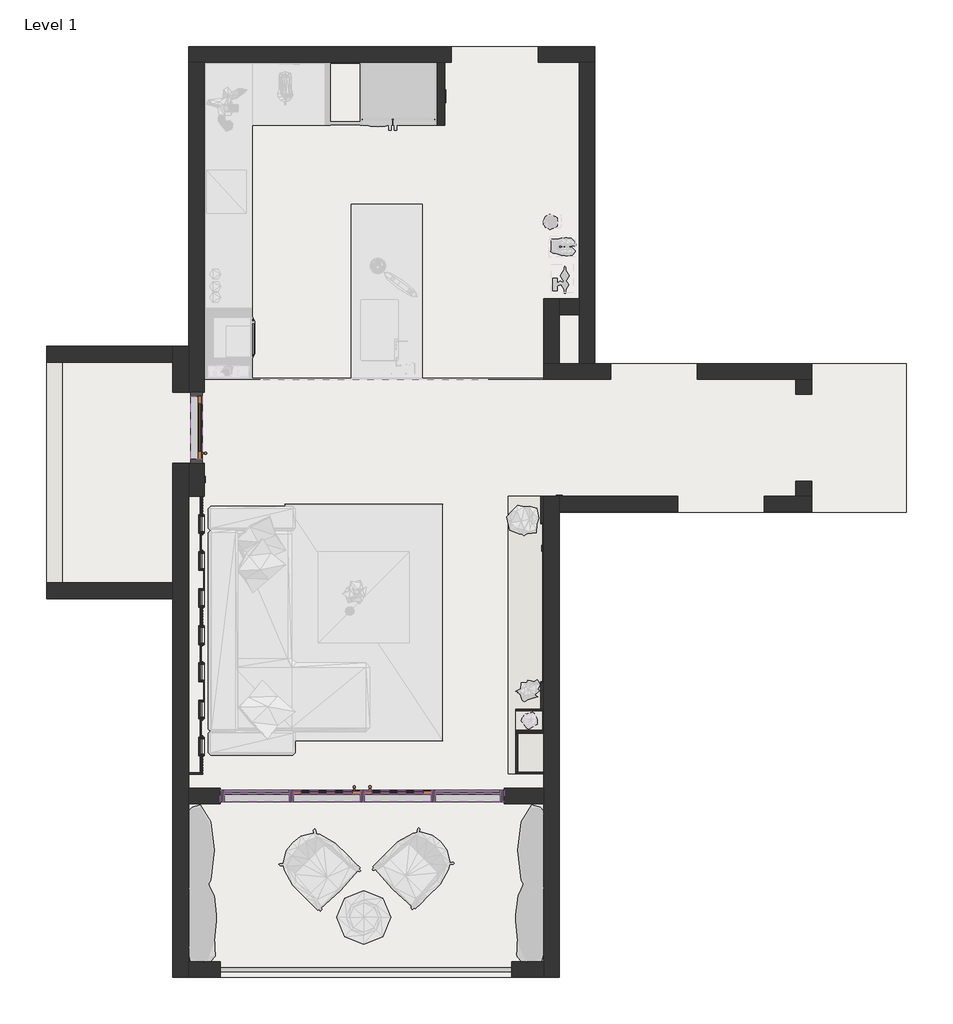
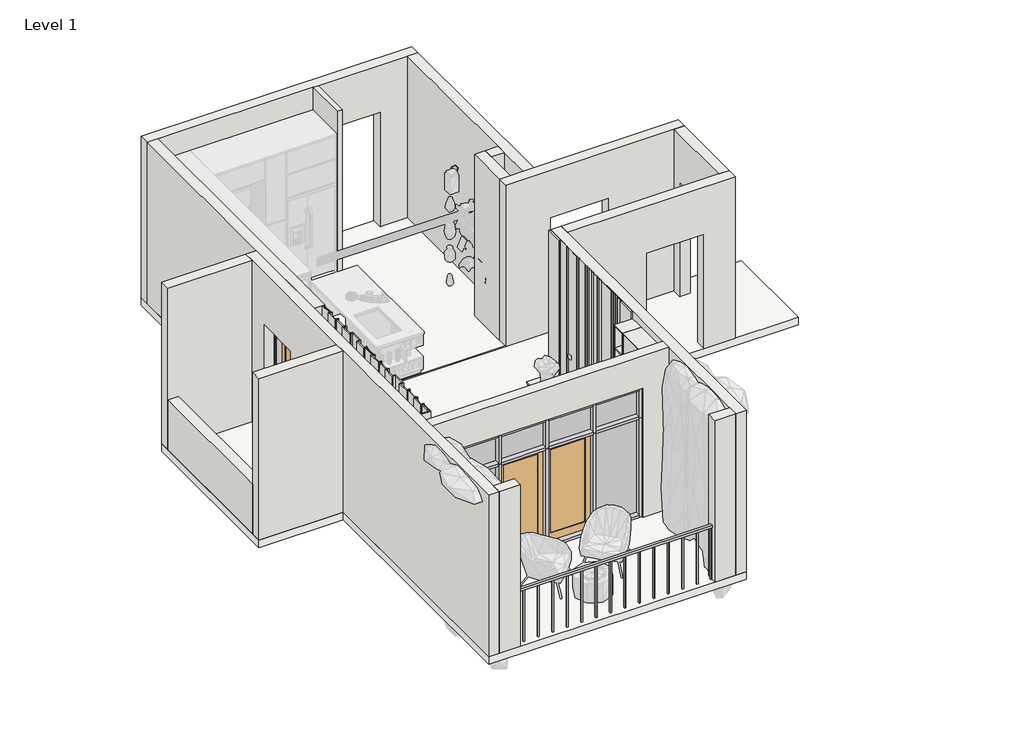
# One storey, part 1 of 2: 26 members, 18 walls, 6 plates, 3 doors, 1 railing, 1 slab.
"""IFC4 building model written with IfcOpenShell, lengths in millimetres."""

from ifc_helpers import new_model, si_unit, frame, origin, origin_with_axes, place, context, project, spatial, polyline, outline, extrude, faceted_brep, transform, mapped, element, save
from components import sgl_glass_1_sgl_glass_1_d6d459c3, sgl_glass_1_sgl_glass_1_0335e07f, sgl_glass_1_sgl_glass_1_a7b072f2, rectangular_mullion_50_x_150mm_3a148f0f, rectangular_mullion_50_x_150mm_aa47fe12, rectangular_mullion_50_x_150mm_6ffebc0f, rectangular_mullion_50_x_150mm_792551fd, rectangular_mullion_50_x_150mm_90073b9d, rectangular_mullion_50_x_150mm_b8505a44, rectangular_mullion_50_x_150mm_68b3818a, rectangular_mullion_50_x_150mm_36fc73c7, rectangular_mullion_50_x_150mm_cc7d0dd8, rectangular_mullion_50_x_150mm_64d38db8, system_panel_glazed_a63d9171, system_panel_glazed_6198c0aa, system_panel_glazed_073ab813, walls_1_walls_1_cd71ade8, walls_1_walls_1_f71c6d6e

model = new_model("IFC4")

# Units and contexts
model_context = context("Model", 3, world=origin())
ifc_project = project(units=[si_unit("LENGTHUNIT", "METRE", prefix="MILLI")], contexts=[model_context])

# Site, building, storey
site = spatial("IfcSite", under=ifc_project)
building = spatial("IfcBuilding", under=site)
storey = spatial("IfcBuildingStorey", under=building, Name="Level 1", Elevation=0.0)

# Doors
placement = place(None, origin())
sgl_glass_1_sgl_glass_1_shape = sgl_glass_1_sgl_glass_1_d6d459c3(model_context)
element("IfcDoor", 1, ObjectType="Sgl Glass (1) : Sgl Glass (1)", at=placement, inside=storey, context=model_context, shape_type="MappedRepresentation", body=[
    mapped(sgl_glass_1_sgl_glass_1_shape, transform((-6467.2426281, 2080.1043853, 50.0), x_axis=(0.0, 1.0, 0.0), y_axis=(-1.0, 0.0, 0.0), z_axis=(0.0, 0.0, 1.0))),
])
sgl_glass_1_sgl_glass_1_2_shape = sgl_glass_1_sgl_glass_1_0335e07f(model_context)
element("IfcDoor", 2, ObjectType="Sgl Glass (1) : Sgl Glass (1)", at=placement, inside=storey, context=model_context, shape_type="MappedRepresentation", body=[
    mapped(sgl_glass_1_sgl_glass_1_2_shape, transform((-4817.2426281, -2589.8956147, 50.0), x_axis=(-1.0, 0.0, 0.0), y_axis=(0.0, -1.0, 0.0), z_axis=(0.0, 0.0, 1.0))),
])
sgl_glass_1_sgl_glass_1_3_shape = sgl_glass_1_sgl_glass_1_a7b072f2(model_context)
element("IfcDoor", 3, ObjectType="Sgl Glass (1) : Sgl Glass (1)", at=placement, inside=storey, context=model_context, shape_type="MappedRepresentation", body=[
    mapped(sgl_glass_1_sgl_glass_1_3_shape, transform((-3917.2426282, -2589.8956147, 50.0), x_axis=(1.0, 0.0, 0.0), y_axis=(0.0, 1.0, 0.0), z_axis=(0.0, 0.0, 1.0))),
])

# Members
rectangular_mullion_50_x_150mm_shape = rectangular_mullion_50_x_150mm_3a148f0f(model_context)
element("IfcMember", 4, ObjectType="Rectangular Mullion : 50 x 150mm", at=placement, inside=storey, context=model_context, shape_type="MappedRepresentation", body=[
    mapped(rectangular_mullion_50_x_150mm_shape, transform((-5267.242628, -2589.8956147, 0.0), x_axis=(1.0, 0.0, 0.0), y_axis=(0.0, -1.0, 0.0), z_axis=(0.0, 0.0, -1.0))),
])
element("IfcMember", 5, ObjectType="Rectangular Mullion : 50 x 150mm", at=placement, inside=storey, context=model_context, shape_type="MappedRepresentation", body=[
    mapped(rectangular_mullion_50_x_150mm_shape, transform((-4367.2426281, -2589.8956147, 0.0), x_axis=(1.0, 0.0, 0.0), y_axis=(0.0, -1.0, 0.0), z_axis=(0.0, 0.0, -1.0))),
])
element("IfcMember", 6, ObjectType="Rectangular Mullion : 50 x 150mm", at=placement, inside=storey, context=model_context, shape_type="MappedRepresentation", body=[
    mapped(rectangular_mullion_50_x_150mm_shape, transform((-3467.2426283, -2589.8956147, 0.0), x_axis=(1.0, 0.0, 0.0), y_axis=(0.0, -1.0, 0.0), z_axis=(0.0, 0.0, -1.0))),
])
rectangular_mullion_50_x_150mm_2_shape = rectangular_mullion_50_x_150mm_aa47fe12(model_context)
element("IfcMember", 7, ObjectType="Rectangular Mullion : 50 x 150mm", at=placement, inside=storey, context=model_context, shape_type="MappedRepresentation", body=[
    mapped(rectangular_mullion_50_x_150mm_2_shape, transform((-2567.2426281, -2589.8956147, 0.0), x_axis=(1.0, 0.0, 0.0), y_axis=(0.0, -1.0, 0.0), z_axis=(0.0, 0.0, -1.0))),
])
element("IfcMember", 8, ObjectType="Rectangular Mullion : 50 x 150mm", at=placement, inside=storey, context=model_context, shape_type="MappedRepresentation", body=[
    mapped(rectangular_mullion_50_x_150mm_2_shape, transform((-6167.2426281, -2589.8956147, 2000.0), x_axis=(-1.0, 0.0, 0.0), y_axis=(0.0, -1.0, 0.0), z_axis=(0.0, 0.0, 1.0))),
])
rectangular_mullion_50_x_150mm_3_shape = rectangular_mullion_50_x_150mm_6ffebc0f(model_context)
element("IfcMember", 9, ObjectType="Rectangular Mullion : 50 x 150mm", at=placement, inside=storey, context=model_context, shape_type="MappedRepresentation", body=[
    mapped(rectangular_mullion_50_x_150mm_3_shape, transform((-6467.2426281, 1680.1043853, 2200.0), x_axis=(0.0, 0.0, 1.0), y_axis=(-1.0, 0.0, 0.0), z_axis=(0.0, -1.0, 0.0))),
])
element("IfcMember", 10, ObjectType="Rectangular Mullion : 50 x 150mm", at=placement, inside=storey, context=model_context, shape_type="MappedRepresentation", body=[
    mapped(rectangular_mullion_50_x_150mm_3_shape, transform((-6467.2426281, 2480.1043853, 0.0), x_axis=(0.0, 0.0, -1.0), y_axis=(-1.0, 0.0, 0.0), z_axis=(0.0, 1.0, 0.0))),
])
rectangular_mullion_50_x_150mm_4_shape = rectangular_mullion_50_x_150mm_792551fd(model_context)
element("IfcMember", 11, ObjectType="Rectangular Mullion : 50 x 150mm", at=placement, inside=storey, context=model_context, shape_type="MappedRepresentation", body=[
    mapped(rectangular_mullion_50_x_150mm_4_shape, transform((-6467.2426281, 1630.1043853, 0.0), x_axis=(0.0, -1.0, 0.0), y_axis=(-1.0, 0.0, 0.0), z_axis=(0.0, 0.0, -1.0))),
])
element("IfcMember", 12, ObjectType="Rectangular Mullion : 50 x 150mm", at=placement, inside=storey, context=model_context, shape_type="MappedRepresentation", body=[
    mapped(rectangular_mullion_50_x_150mm_4_shape, transform((-6467.2426281, 2530.1043853, 2200.0), x_axis=(0.0, 1.0, 0.0), y_axis=(-1.0, 0.0, 0.0), z_axis=(0.0, 0.0, 1.0))),
])
rectangular_mullion_50_x_150mm_5_shape = rectangular_mullion_50_x_150mm_90073b9d(model_context)
element("IfcMember", 13, ObjectType="Rectangular Mullion : 50 x 150mm", at=placement, inside=storey, context=model_context, shape_type="MappedRepresentation", body=[
    mapped(rectangular_mullion_50_x_150mm_5_shape, transform((-2617.2426281, -2589.8956147, 2600.0), x_axis=(0.0, 0.0, 1.0), y_axis=(0.0, -1.0, 0.0), z_axis=(1.0, 0.0, 0.0))),
])
element("IfcMember", 14, ObjectType="Rectangular Mullion : 50 x 150mm", at=placement, inside=storey, context=model_context, shape_type="MappedRepresentation", body=[
    mapped(rectangular_mullion_50_x_150mm_5_shape, transform((-5292.242628, -2589.8956147, 2600.0), x_axis=(0.0, 0.0, 1.0), y_axis=(0.0, -1.0, 0.0), z_axis=(1.0, 0.0, 0.0))),
])
rectangular_mullion_50_x_150mm_6_shape = rectangular_mullion_50_x_150mm_b8505a44(model_context)
element("IfcMember", 15, ObjectType="Rectangular Mullion : 50 x 150mm", at=placement, inside=storey, context=model_context, shape_type="MappedRepresentation", body=[
    mapped(rectangular_mullion_50_x_150mm_6_shape, transform((-4392.2426281, -2589.8956147, 2600.0), x_axis=(0.0, 0.0, 1.0), y_axis=(0.0, -1.0, 0.0), z_axis=(1.0, 0.0, 0.0))),
])
element("IfcMember", 16, ObjectType="Rectangular Mullion : 50 x 150mm", at=placement, inside=storey, context=model_context, shape_type="MappedRepresentation", body=[
    mapped(rectangular_mullion_50_x_150mm_6_shape, transform((-3492.2426283, -2589.8956147, 2600.0), x_axis=(0.0, 0.0, 1.0), y_axis=(0.0, -1.0, 0.0), z_axis=(1.0, 0.0, 0.0))),
])
element("IfcMember", 17, ObjectType="Rectangular Mullion : 50 x 150mm", at=placement, inside=storey, context=model_context, shape_type="MappedRepresentation", body=[
    mapped(rectangular_mullion_50_x_150mm_5_shape, transform((-6117.2426281, -2589.8956147, 0.0), x_axis=(0.0, 0.0, -1.0), y_axis=(0.0, -1.0, 0.0), z_axis=(-1.0, 0.0, 0.0))),
])
element("IfcMember", 18, ObjectType="Rectangular Mullion : 50 x 150mm", at=placement, inside=storey, context=model_context, shape_type="MappedRepresentation", body=[
    mapped(rectangular_mullion_50_x_150mm_5_shape, transform((-3442.2426283, -2589.8956147, 0.0), x_axis=(0.0, 0.0, -1.0), y_axis=(0.0, -1.0, 0.0), z_axis=(-1.0, 0.0, 0.0))),
])
element("IfcMember", 19, ObjectType="Rectangular Mullion : 50 x 150mm", at=placement, inside=storey, context=model_context, shape_type="MappedRepresentation", body=[
    mapped(rectangular_mullion_50_x_150mm_6_shape, transform((-5242.242628, -2589.8956147, 0.0), x_axis=(0.0, 0.0, -1.0), y_axis=(0.0, -1.0, 0.0), z_axis=(-1.0, 0.0, 0.0))),
])
element("IfcMember", 20, ObjectType="Rectangular Mullion : 50 x 150mm", at=placement, inside=storey, context=model_context, shape_type="MappedRepresentation", body=[
    mapped(rectangular_mullion_50_x_150mm_6_shape, transform((-4342.2426281, -2589.8956147, 0.0), x_axis=(0.0, 0.0, -1.0), y_axis=(0.0, -1.0, 0.0), z_axis=(-1.0, 0.0, 0.0))),
])
rectangular_mullion_50_x_150mm_7_shape = rectangular_mullion_50_x_150mm_68b3818a(model_context)
element("IfcMember", 21, ObjectType="Rectangular Mullion : 50 x 150mm", at=placement, inside=storey, context=model_context, shape_type="MappedRepresentation", body=[
    mapped(rectangular_mullion_50_x_150mm_7_shape, transform((-5267.242628, -2589.8956147, 2000.0), x_axis=(1.0, 0.0, 0.0), y_axis=(0.0, -1.0, 0.0), z_axis=(0.0, 0.0, -1.0))),
])
element("IfcMember", 22, ObjectType="Rectangular Mullion : 50 x 150mm", at=placement, inside=storey, context=model_context, shape_type="MappedRepresentation", body=[
    mapped(rectangular_mullion_50_x_150mm_7_shape, transform((-4367.2426281, -2589.8956147, 2000.0), x_axis=(1.0, 0.0, 0.0), y_axis=(0.0, -1.0, 0.0), z_axis=(0.0, 0.0, -1.0))),
])
element("IfcMember", 23, ObjectType="Rectangular Mullion : 50 x 150mm", at=placement, inside=storey, context=model_context, shape_type="MappedRepresentation", body=[
    mapped(rectangular_mullion_50_x_150mm_7_shape, transform((-3467.2426283, -2589.8956147, 2000.0), x_axis=(1.0, 0.0, 0.0), y_axis=(0.0, -1.0, 0.0), z_axis=(0.0, 0.0, -1.0))),
])
rectangular_mullion_50_x_150mm_8_shape = rectangular_mullion_50_x_150mm_36fc73c7(model_context)
element("IfcMember", 24, ObjectType="Rectangular Mullion : 50 x 150mm", at=placement, inside=storey, context=model_context, shape_type="MappedRepresentation", body=[
    mapped(rectangular_mullion_50_x_150mm_8_shape, transform((-5292.242628, -2589.8956147, 2000.0), x_axis=(0.0, 0.0, 1.0), y_axis=(0.0, -1.0, 0.0), z_axis=(1.0, 0.0, 0.0))),
])
element("IfcMember", 25, ObjectType="Rectangular Mullion : 50 x 150mm", at=placement, inside=storey, context=model_context, shape_type="MappedRepresentation", body=[
    mapped(rectangular_mullion_50_x_150mm_8_shape, transform((-2617.2426281, -2589.8956147, 2000.0), x_axis=(0.0, 0.0, 1.0), y_axis=(0.0, -1.0, 0.0), z_axis=(1.0, 0.0, 0.0))),
])
rectangular_mullion_50_x_150mm_9_shape = rectangular_mullion_50_x_150mm_cc7d0dd8(model_context)
element("IfcMember", 26, ObjectType="Rectangular Mullion : 50 x 150mm", at=placement, inside=storey, context=model_context, shape_type="MappedRepresentation", body=[
    mapped(rectangular_mullion_50_x_150mm_9_shape, transform((-4392.2426281, -2589.8956147, 2000.0), x_axis=(0.0, 0.0, 1.0), y_axis=(0.0, -1.0, 0.0), z_axis=(1.0, 0.0, 0.0))),
])
element("IfcMember", 27, ObjectType="Rectangular Mullion : 50 x 150mm", at=placement, inside=storey, context=model_context, shape_type="MappedRepresentation", body=[
    mapped(rectangular_mullion_50_x_150mm_9_shape, transform((-3492.2426283, -2589.8956147, 2000.0), x_axis=(0.0, 0.0, 1.0), y_axis=(0.0, -1.0, 0.0), z_axis=(1.0, 0.0, 0.0))),
])
rectangular_mullion_50_x_150mm_10_shape = rectangular_mullion_50_x_150mm_64d38db8(model_context)
element("IfcMember", 28, ObjectType="Rectangular Mullion : 50 x 150mm", at=placement, inside=storey, context=model_context, shape_type="MappedRepresentation", body=[
    mapped(rectangular_mullion_50_x_150mm_10_shape, transform((-6167.2426281, -2589.8956147, 2600.0), x_axis=(-1.0, 0.0, 0.0), y_axis=(0.0, -1.0, 0.0), z_axis=(0.0, 0.0, 1.0))),
])
element("IfcMember", 29, ObjectType="Rectangular Mullion : 50 x 150mm", at=placement, inside=storey, context=model_context, shape_type="MappedRepresentation", body=[
    mapped(rectangular_mullion_50_x_150mm_10_shape, transform((-2567.2426281, -2589.8956147, 2000.0), x_axis=(1.0, 0.0, 0.0), y_axis=(0.0, -1.0, 0.0), z_axis=(0.0, 0.0, -1.0))),
])

# Plates
system_panel_glazed_shape = system_panel_glazed_a63d9171(model_context)
element("IfcPlate", 30, ObjectType="System Panel : Glazed", at=placement, inside=storey, context=model_context, shape_type="MappedRepresentation", body=[
    mapped(system_panel_glazed_shape, transform((-5704.7426281, -2589.8956147, 2025.0), x_axis=(1.0, 0.0, 0.0), y_axis=(0.0, 1.0, 0.0), z_axis=(0.0, 0.0, 1.0))),
])
element("IfcPlate", 31, ObjectType="System Panel : Glazed", at=placement, inside=storey, context=model_context, shape_type="MappedRepresentation", body=[
    mapped(system_panel_glazed_shape, transform((-3029.7426282, -2589.8956147, 2025.0), x_axis=(1.0, 0.0, 0.0), y_axis=(0.0, 1.0, 0.0), z_axis=(0.0, 0.0, 1.0))),
])
system_panel_glazed_2_shape = system_panel_glazed_6198c0aa(model_context)
element("IfcPlate", 32, ObjectType="System Panel : Glazed", at=placement, inside=storey, context=model_context, shape_type="MappedRepresentation", body=[
    mapped(system_panel_glazed_2_shape, transform((-4817.2426281, -2589.8956147, 2025.0), x_axis=(1.0, 0.0, 0.0), y_axis=(0.0, 1.0, 0.0), z_axis=(0.0, 0.0, 1.0))),
])
element("IfcPlate", 33, ObjectType="System Panel : Glazed", at=placement, inside=storey, context=model_context, shape_type="MappedRepresentation", body=[
    mapped(system_panel_glazed_2_shape, transform((-3917.2426282, -2589.8956147, 2025.0), x_axis=(1.0, 0.0, 0.0), y_axis=(0.0, 1.0, 0.0), z_axis=(0.0, 0.0, 1.0))),
])
system_panel_glazed_3_shape = system_panel_glazed_073ab813(model_context)
element("IfcPlate", 34, ObjectType="System Panel : Glazed", at=placement, inside=storey, context=model_context, shape_type="MappedRepresentation", body=[
    mapped(system_panel_glazed_3_shape, transform((-5704.7426281, -2589.8956147, 50.0), x_axis=(1.0, 0.0, 0.0), y_axis=(0.0, 1.0, 0.0), z_axis=(0.0, 0.0, 1.0))),
])
element("IfcPlate", 35, ObjectType="System Panel : Glazed", at=placement, inside=storey, context=model_context, shape_type="MappedRepresentation", body=[
    mapped(system_panel_glazed_3_shape, transform((-3029.7426282, -2589.8956147, 50.0), x_axis=(1.0, 0.0, 0.0), y_axis=(0.0, 1.0, 0.0), z_axis=(0.0, 0.0, 1.0))),
])

# Railing
element("IfcRailing", 36, ObjectType="1100mm", at=placement, inside=storey, context=model_context, shape_type="SweptSolid", body=[
    extrude(outline(polyline([(-2467.2426281, -4764.8956147), (-2467.2426281, -4814.8956147), (-6167.2426281, -4814.8956147), (-6167.2426281, -4764.8956147), (-2467.2426281, -4764.8956147)])), frame((0.0, 0.0, 1050.0), z_axis=(0.0, 0.0, 1.0), x_axis=(1.0, 0.0, 0.0)), (0.0, 0.0, 1.0), 50.0),
    extrude(outline(polyline([(-6029.7426281, -4777.3956147), (-6029.7426281, -4802.3956147), (-6054.7426281, -4802.3956147), (-6054.7426281, -4777.3956147), (-6029.7426281, -4777.3956147)])), origin_with_axes(), (0.0, 0.0, 1.0), 1050.0),
    extrude(outline(polyline([(-5754.7426281, -4777.3956147), (-5754.7426281, -4802.3956147), (-5779.7426281, -4802.3956147), (-5779.7426281, -4777.3956147), (-5754.7426281, -4777.3956147)])), origin_with_axes(), (0.0, 0.0, 1.0), 1050.0),
    extrude(outline(polyline([(-5479.7426281, -4777.3956147), (-5479.7426281, -4802.3956147), (-5504.7426281, -4802.3956147), (-5504.7426281, -4777.3956147), (-5479.7426281, -4777.3956147)])), origin_with_axes(), (0.0, 0.0, 1.0), 1050.0),
    extrude(outline(polyline([(-5204.7426281, -4777.3956147), (-5204.7426281, -4802.3956147), (-5229.7426281, -4802.3956147), (-5229.7426281, -4777.3956147), (-5204.7426281, -4777.3956147)])), origin_with_axes(), (0.0, 0.0, 1.0), 1050.0),
    extrude(outline(polyline([(-4929.7426281, -4777.3956147), (-4929.7426281, -4802.3956147), (-4954.7426281, -4802.3956147), (-4954.7426281, -4777.3956147), (-4929.7426281, -4777.3956147)])), origin_with_axes(), (0.0, 0.0, 1.0), 1050.0),
    extrude(outline(polyline([(-4654.7426281, -4777.3956147), (-4654.7426281, -4802.3956147), (-4679.7426281, -4802.3956147), (-4679.7426281, -4777.3956147), (-4654.7426281, -4777.3956147)])), origin_with_axes(), (0.0, 0.0, 1.0), 1050.0),
    extrude(outline(polyline([(-4379.7426281, -4777.3956147), (-4379.7426281, -4802.3956147), (-4404.7426281, -4802.3956147), (-4404.7426281, -4777.3956147), (-4379.7426281, -4777.3956147)])), origin_with_axes(), (0.0, 0.0, 1.0), 1050.0),
    extrude(outline(polyline([(-4104.7426281, -4777.3956147), (-4104.7426281, -4802.3956147), (-4129.7426281, -4802.3956147), (-4129.7426281, -4777.3956147), (-4104.7426281, -4777.3956147)])), origin_with_axes(), (0.0, 0.0, 1.0), 1050.0),
    extrude(outline(polyline([(-3829.7426281, -4777.3956147), (-3829.7426281, -4802.3956147), (-3854.7426281, -4802.3956147), (-3854.7426281, -4777.3956147), (-3829.7426281, -4777.3956147)])), origin_with_axes(), (0.0, 0.0, 1.0), 1050.0),
    extrude(outline(polyline([(-3554.7426281, -4777.3956147), (-3554.7426281, -4802.3956147), (-3579.7426281, -4802.3956147), (-3579.7426281, -4777.3956147), (-3554.7426281, -4777.3956147)])), origin_with_axes(), (0.0, 0.0, 1.0), 1050.0),
    extrude(outline(polyline([(-3279.7426281, -4777.3956147), (-3279.7426281, -4802.3956147), (-3304.7426281, -4802.3956147), (-3304.7426281, -4777.3956147), (-3279.7426281, -4777.3956147)])), origin_with_axes(), (0.0, 0.0, 1.0), 1050.0),
    extrude(outline(polyline([(-3004.7426281, -4777.3956147), (-3004.7426281, -4802.3956147), (-3029.7426281, -4802.3956147), (-3029.7426281, -4777.3956147), (-3004.7426281, -4777.3956147)])), origin_with_axes(), (0.0, 0.0, 1.0), 1050.0),
    extrude(outline(polyline([(-2729.7426281, -4777.3956147), (-2729.7426281, -4802.3956147), (-2754.7426281, -4802.3956147), (-2754.7426281, -4777.3956147), (-2729.7426281, -4777.3956147)])), origin_with_axes(), (0.0, 0.0, 1.0), 1050.0),
    extrude(outline(polyline([(-6142.2426281, -4777.3956147), (-6142.2426281, -4802.3956147), (-6167.2426281, -4802.3956147), (-6167.2426281, -4777.3956147), (-6142.2426281, -4777.3956147)])), origin_with_axes(), (0.0, 0.0, 1.0), 1050.0),
    extrude(outline(polyline([(-2467.2426281, -4777.3956147), (-2467.2426281, -4802.3956147), (-2492.2426281, -4802.3956147), (-2492.2426281, -4777.3956147), (-2467.2426281, -4777.3956147)])), origin_with_axes(), (0.0, 0.0, 1.0), 1050.0),
])

# Slab
element("IfcSlab", 37, ObjectType="Generic 150mm", at=placement, inside=storey, context=model_context, shape_type="SweptSolid", body=[
    extrude(outline(polyline([(-1417.2426281, 6910.1043853), (-1417.2426281, 2890.1043853), (2532.7573719, 2890.1043853), (2532.7573719, 1010.1043853), (-1867.2426281, 1010.1043853), (-1867.2426281, -4889.8956147), (-6767.2426281, -4889.8956147), (-6767.2426281, -89.8956147), (-8367.2426281, -89.8956147), (-8367.2426281, 3110.1043853), (-6567.2426281, 3110.1043853), (-6567.2426281, 6910.1043853), (-1417.2426281, 6910.1043853)])), frame((0.0, 0.0, -150.0), z_axis=(0.0, 0.0, 1.0), x_axis=(1.0, 0.0, 0.0)), (0.0, 0.0, 1.0), 150.0),
])

# Walls
element("IfcWall", 38, ObjectType="Generic - 100mm", at=placement, inside=storey, context=model_context, shape_type="Brep", body=[
    faceted_brep([(-3417.2426281, 6710.1043853, 0.0), (-3417.2426281, 5910.1043853, 0.0), (-3417.2426281, 5910.1043853, 100.0), (-3417.2426281, 5910.1043853, 3250.0), (-3417.2426281, 6710.1043853, 3250.0), (-3317.2426281, 5910.1043853, 0.0), (-3317.2426281, 6710.1043853, 0.0), (-3317.2426281, 6710.1043853, 100.0), (-3317.2426281, 6710.1043853, 3250.0), (-3317.2426281, 5910.1043853, 3250.0), (-3317.2426281, 5910.1043853, 100.0)], [[[0, 1, 2, 3, 4]], [[5, 6, 7, 8, 9, 10]], [[1, 0, 6, 5]], [[1, 5, 10, 9, 3, 2]], [[0, 4, 8, 7, 6]], [[4, 3, 9, 8]]]),
])
element("IfcWall", 39, ObjectType="Generic - 200mm", at=placement, inside=storey, context=model_context, shape_type="Brep", body=[
    faceted_brep([(-6567.2426281, 3110.1043853, 0.0), (-6567.2426281, 3110.1043853, 3250.0), (-6567.2426281, 1210.1043853, 3250.0), (-6567.2426281, -2489.8956147, 3250.0), (-6567.2426281, -2689.8956147, 3250.0), (-6567.2426281, -4689.8956147, 3250.0), (-6567.2426281, -4889.8956147, 3250.0), (-6567.2426281, -4889.8956147, 0.0), (-6567.2426281, -4689.8956147, 0.0), (-6567.2426281, -2689.8956147, 0.0), (-6567.2426281, -2489.8956147, 0.0), (-6567.2426281, 1210.1043853, 0.0), (-6567.2426281, 1630.1043853, 0.0), (-6567.2426281, 1630.1043853, 2200.0), (-6567.2426281, 2530.1043853, 2200.0), (-6567.2426281, 2530.1043853, 0.0), (-6767.2426281, 3110.1043853, 3250.0), (-6767.2426281, 3110.1043853, 0.0), (-6767.2426281, 2910.1043853, 0.0), (-6767.2426281, 2530.1043853, 0.0), (-6767.2426281, 2530.1043853, 2200.0), (-6767.2426281, 1630.1043853, 2200.0), (-6767.2426281, 1630.1043853, 0.0), (-6767.2426281, 110.1043853, 0.0), (-6767.2426281, -89.8956147, 0.0), (-6767.2426281, -4889.8956147, 0.0), (-6767.2426281, -4889.8956147, 3250.0), (-6767.2426281, -89.8956147, 3250.0), (-6767.2426281, 110.1043853, 3250.0), (-6767.2426281, 2910.1043853, 3250.0)], [[[0, 1, 2, 3, 4, 5, 6, 7, 8, 9, 10, 11, 12, 13, 14, 15]], [[16, 17, 18, 19, 20, 21, 22, 23, 24, 25, 26, 27, 28, 29]], [[17, 0, 15, 19, 18]], [[7, 25, 24, 23, 22, 12, 11, 10, 9, 8]], [[1, 0, 17, 16]], [[7, 6, 26, 25]], [[14, 20, 19, 15]], [[21, 13, 12, 22]], [[13, 21, 20, 14]], [[26, 6, 5, 4, 3, 2, 1, 16, 29, 28, 27]]]),
])
element("IfcWall", 40, ObjectType="Generic - 200mm", at=placement, inside=storey, context=model_context, shape_type="Brep", body=[
    faceted_brep([(-1417.2426281, 6710.1043853, 0.0), (-1417.2426281, 6710.1043853, 3250.0), (-1617.2426281, 6710.1043853, 3250.0), (-3317.2426281, 6710.1043853, 3250.0), (-3417.2426281, 6710.1043853, 3250.0), (-6367.2426281, 6710.1043853, 3250.0), (-6567.2426281, 6710.1043853, 3250.0), (-6567.2426281, 6710.1043853, 0.0), (-6367.2426281, 6710.1043853, 0.0), (-3417.2426281, 6710.1043853, 0.0), (-3317.2426281, 6710.1043853, 0.0), (-3237.2426281, 6710.1043853, 0.0), (-3237.2426281, 6710.1043853, 2300.0), (-2137.2426281, 6710.1043853, 2300.0), (-2137.2426281, 6710.1043853, 0.0), (-1617.2426281, 6710.1043853, 0.0), (-1417.2426281, 6910.1043853, 3250.0), (-1417.2426281, 6910.1043853, 0.0), (-2137.2426281, 6910.1043853, 0.0), (-2137.2426281, 6910.1043853, 2300.0), (-3237.2426281, 6910.1043853, 2300.0), (-3237.2426281, 6910.1043853, 0.0), (-6567.2426281, 6910.1043853, 0.0), (-6567.2426281, 6910.1043853, 3250.0)], [[[0, 1, 2, 3, 4, 5, 6, 7, 8, 9, 10, 11, 12, 13, 14, 15]], [[16, 17, 18, 19, 20, 21, 22, 23]], [[17, 0, 15, 14, 18]], [[7, 22, 21, 11, 10, 9, 8]], [[1, 0, 17, 16]], [[7, 6, 23, 22]], [[6, 5, 4, 3, 2, 1, 16, 23]], [[20, 12, 11, 21]], [[12, 20, 19, 13]], [[13, 19, 18, 14]]]),
])
element("IfcWall", 41, ObjectType="Generic - 200mm", at=placement, inside=storey, context=model_context, shape_type="Brep", body=[
    faceted_brep([(-2067.2426281, -4889.8956147, 0.0), (-2067.2426281, -4889.8956147, 3250.0), (-2067.2426281, -4689.8956147, 3250.0), (-2067.2426281, -2689.8956147, 3250.0), (-2067.2426281, -2489.8956147, 3250.0), (-2067.2426281, 1210.1043853, 3250.0), (-2067.2426281, 1210.1043853, 100.0), (-2067.2426281, 1210.1043853, 0.0), (-2067.2426281, -2479.8956147, 0.0), (-2067.2426281, -2489.8956147, 0.0), (-2067.2426281, -2689.8956147, 0.0), (-2067.2426281, -4689.8956147, 0.0), (-1867.2426281, -4889.8956147, 0.0), (-1867.2426281, 1010.1043853, 0.0), (-1867.2426281, 1210.1043853, 0.0), (-1867.2426281, 1210.1043853, 100.0), (-1867.2426281, 1210.1043853, 3250.0), (-1867.2426281, 1010.1043853, 3250.0), (-1867.2426281, -4889.8956147, 3250.0)], [[[0, 1, 2, 3, 4, 5, 6, 7, 8, 9, 10, 11]], [[12, 13, 14, 15, 16, 17, 18]], [[14, 13, 12, 0, 11, 10, 9, 8, 7]], [[5, 16, 15, 14, 7, 6]], [[1, 0, 12, 18]], [[16, 5, 4, 3, 2, 1, 18, 17]]]),
])
element("IfcWall", 42, ObjectType="Generic - 200mm", at=placement, inside=storey, context=model_context, shape_type="Brep", body=[
    faceted_brep([(-6767.2426281, 3110.1043853, 0.0), (-8367.2426281, 3110.1043853, 0.0), (-8367.2426281, 3110.1043853, 3250.0), (-6767.2426281, 3110.1043853, 3250.0), (-6767.2426281, 2910.1043853, 0.0), (-6767.2426281, 2910.1043853, 3250.0), (-8367.2426281, 2910.1043853, 3250.0), (-8367.2426281, 2910.1043853, 1000.0), (-8367.2426281, 2910.1043853, 0.0), (-8167.2426281, 2910.1043853, 0.0)], [[[0, 1, 2, 3]], [[4, 5, 6, 7, 8, 9]], [[1, 0, 4, 9, 8]], [[2, 1, 8, 7, 6]], [[0, 3, 5, 4]], [[3, 2, 6, 5]]]),
])
element("IfcWall", 43, ObjectType="Generic - 200mm", at=placement, inside=storey, context=model_context, shape_type="Brep", body=[
    faceted_brep([(-6767.2426281, 110.1043853, 0.0), (-8167.2426281, 110.1043853, 0.0), (-8367.2426281, 110.1043853, 0.0), (-8367.2426281, 110.1043853, 1000.0), (-8367.2426281, 110.1043853, 3250.0), (-6767.2426281, 110.1043853, 3250.0), (-6767.2426281, -89.8956147, 0.0), (-6767.2426281, -89.8956147, 3250.0), (-8367.2426281, -89.8956147, 3250.0), (-8367.2426281, -89.8956147, 0.0)], [[[0, 1, 2, 3, 4, 5]], [[6, 7, 8, 9]], [[2, 1, 0, 6, 9]], [[0, 5, 7, 6]], [[4, 3, 2, 9, 8]], [[5, 4, 8, 7]]]),
])
element("IfcWall", 44, ObjectType="Generic - 200mm", at=placement, inside=storey, context=model_context, shape_type="Brep", body=[
    faceted_brep([(1332.7573719, 2690.1043853, 0.0), (1332.7573719, 2690.1043853, 3250.0), (1132.7573719, 2690.1043853, 3250.0), (-2067.2426281, 2690.1043853, 3250.0), (-2067.2426281, 2690.1043853, 100.0), (-2067.2426281, 2690.1043853, 0.0), (-1217.2426281, 2690.1043853, 0.0), (-1217.2426281, 2690.1043853, 100.0), (-1217.2426281, 2690.1043853, 2300.0), (-117.2426281, 2690.1043853, 2300.0), (-117.2426281, 2690.1043853, 100.0), (-117.2426281, 2690.1043853, 0.0), (1132.7573719, 2690.1043853, 0.0), (1332.7573719, 2890.1043853, 3250.0), (1332.7573719, 2890.1043853, 0.0), (-117.2426281, 2890.1043853, 0.0), (-117.2426281, 2890.1043853, 2300.0), (-1217.2426281, 2890.1043853, 2300.0), (-1217.2426281, 2890.1043853, 0.0), (-1417.2426281, 2890.1043853, 0.0), (-1617.2426281, 2890.1043853, 0.0), (-1867.2426281, 2890.1043853, 0.0), (-2067.2426281, 2890.1043853, 0.0), (-2067.2426281, 2890.1043853, 100.0), (-2067.2426281, 2890.1043853, 3250.0), (-1867.2426281, 2890.1043853, 3250.0), (-1617.2426281, 2890.1043853, 3250.0), (-1417.2426281, 2890.1043853, 3250.0)], [[[0, 1, 2, 3, 4, 5, 6, 7, 8, 9, 10, 11, 12]], [[13, 14, 15, 16, 17, 18, 19, 20, 21, 22, 23, 24, 25, 26, 27]], [[5, 22, 21, 20, 19, 18, 6]], [[14, 0, 12, 11, 15]], [[3, 24, 23, 22, 5, 4]], [[1, 0, 14, 13]], [[24, 3, 2, 1, 13, 27, 26, 25]], [[9, 16, 15, 11, 10]], [[16, 9, 8, 17]], [[17, 8, 7, 6, 18]]]),
])
element("IfcWall", 45, ObjectType="Generic - 200mm", at=placement, inside=storey, context=model_context, shape_type="Brep", body=[
    faceted_brep([(-1867.2426281, 1010.1043853, 3250.0), (-1867.2426281, 1010.1043853, 0.0), (-367.2426281, 1010.1043853, 0.0), (-367.2426281, 1010.1043853, 2300.0), (732.7573719, 1010.1043853, 2300.0), (732.7573719, 1010.1043853, 0.0), (1332.7573719, 1010.1043853, 0.0), (1332.7573719, 1010.1043853, 3250.0), (-1867.2426281, 1210.1043853, 0.0), (-1867.2426281, 1210.1043853, 3250.0), (1132.7573719, 1210.1043853, 3250.0), (1332.7573719, 1210.1043853, 3250.0), (1332.7573719, 1210.1043853, 0.0), (1132.7573719, 1210.1043853, 0.0), (732.7573719, 1210.1043853, 0.0), (732.7573719, 1210.1043853, 2300.0), (-367.2426281, 1210.1043853, 2300.0), (-367.2426281, 1210.1043853, 0.0)], [[[0, 1, 2, 3, 4, 5, 6, 7]], [[8, 9, 10, 11, 12, 13, 14, 15, 16, 17]], [[1, 8, 17, 2]], [[12, 6, 5, 14, 13]], [[1, 0, 9, 8]], [[7, 6, 12, 11]], [[0, 7, 11, 10, 9]], [[4, 15, 14, 5]], [[15, 4, 3, 16]], [[16, 3, 2, 17]]]),
])
element("IfcWall", 46, ObjectType="Generic - 200mm", at=placement, inside=storey, context=model_context, shape_type="Brep", body=[
    faceted_brep([(-1417.2426281, 2890.1043853, 0.0), (-1417.2426281, 6710.1043853, 0.0), (-1417.2426281, 6710.1043853, 3250.0), (-1417.2426281, 2890.1043853, 3250.0), (-1617.2426281, 2890.1043853, 0.0), (-1617.2426281, 2890.1043853, 3250.0), (-1617.2426281, 3510.1043853, 3250.0), (-1617.2426281, 3710.1043853, 3250.0), (-1617.2426281, 6710.1043853, 3250.0), (-1617.2426281, 6710.1043853, 100.0), (-1617.2426281, 6710.1043853, 0.0), (-1617.2426281, 6700.1043853, 0.0), (-1617.2426281, 3710.1043853, 0.0), (-1617.2426281, 3510.1043853, 0.0)], [[[0, 1, 2, 3]], [[4, 5, 6, 7, 8, 9, 10, 11, 12, 13]], [[1, 0, 4, 13, 12, 11, 10]], [[0, 3, 5, 4]], [[2, 1, 10, 9, 8]], [[3, 2, 8, 7, 6, 5]]]),
])
element("IfcWall", 47, ObjectType="Generic - 200mm", at=placement, inside=storey, context=model_context, shape_type="SweptSolid", body=[
    extrude(outline(polyline([(3250.0, -6567.2426281), (0.0, -6567.2426281), (0.0, -6167.2426281), (2600.0, -6167.2426281), (2600.0, -2567.2426281), (0.0, -2567.2426281), (0.0, -2067.2426281), (3250.0, -2067.2426281), (3250.0, -6567.2426281)])), frame((0.0, -2689.8956147, 0.0), z_axis=(0.0, 1.0, 0.0), x_axis=(0.0, 0.0, 1.0)), (0.0, 0.0, 1.0), 200.0),
])
element("IfcWall", 48, ObjectType="Generic - 200mm", at=placement, inside=storey, context=model_context, shape_type="SweptSolid", body=[
    extrude(outline(polyline([(-8367.2426281, 110.1043853), (-8367.2426281, 2910.1043853), (-8167.2426281, 2910.1043853), (-8167.2426281, 110.1043853), (-8367.2426281, 110.1043853)])), origin_with_axes(), (0.0, 0.0, 1.0), 1000.0),
])
element("IfcWall", 49, ObjectType="Generic - 200mm", at=placement, inside=storey, context=model_context, shape_type="Brep", body=[
    faceted_brep([(-6367.2426281, 1210.1043853, 3250.0), (-6367.2426281, 1210.1043853, 0.0), (-6367.2426281, 1630.1043853, 0.0), (-6367.2426281, 1630.1043853, 2200.0), (-6367.2426281, 2530.1043853, 2200.0), (-6367.2426281, 2530.1043853, 0.0), (-6367.2426281, 6710.1043853, 0.0), (-6367.2426281, 6710.1043853, 3250.0), (-6567.2426281, 1210.1043853, 0.0), (-6567.2426281, 1210.1043853, 3250.0), (-6567.2426281, 3110.1043853, 3250.0), (-6567.2426281, 6710.1043853, 3250.0), (-6567.2426281, 6710.1043853, 0.0), (-6567.2426281, 3110.1043853, 0.0), (-6567.2426281, 2530.1043853, 0.0), (-6567.2426281, 2530.1043853, 2200.0), (-6567.2426281, 1630.1043853, 2200.0), (-6567.2426281, 1630.1043853, 0.0)], [[[0, 1, 2, 3, 4, 5, 6, 7]], [[8, 9, 10, 11, 12, 13, 14, 15, 16, 17]], [[1, 8, 17, 2]], [[12, 6, 5, 14, 13]], [[1, 0, 9, 8]], [[7, 6, 12, 11]], [[4, 15, 14, 5]], [[16, 3, 2, 17]], [[3, 16, 15, 4]], [[9, 0, 7, 11, 10]]]),
])
element("IfcWall", 50, ObjectType="Generic - 200mm", at=placement, inside=storey, context=model_context, shape_type="Brep", body=[
    faceted_brep([(-1867.2426281, 2890.1043853, 0.0), (-1867.2426281, 3510.1043853, 0.0), (-1867.2426281, 3710.1043853, 0.0), (-1867.2426281, 3710.1043853, 3250.0), (-1867.2426281, 3510.1043853, 3250.0), (-1867.2426281, 2890.1043853, 3250.0), (-2067.2426281, 3710.1043853, 0.0), (-2067.2426281, 2890.1043853, 0.0), (-2067.2426281, 2890.1043853, 100.0), (-2067.2426281, 2890.1043853, 3250.0), (-2067.2426281, 3710.1043853, 3250.0), (-2067.2426281, 3710.1043853, 100.0)], [[[0, 1, 2, 3, 4, 5]], [[6, 7, 8, 9, 10, 11]], [[2, 1, 0, 7, 6]], [[0, 5, 9, 8, 7]], [[3, 2, 6, 11, 10]], [[5, 4, 3, 10, 9]]]),
])
element("IfcWall", 51, ObjectType="Generic - 200mm", at=placement, inside=storey, context=model_context, shape_type="SweptSolid", body=[
    extrude(outline(polyline([(-1617.2426281, 3510.1043853), (-1867.2426281, 3510.1043853), (-1867.2426281, 3710.1043853), (-1617.2426281, 3710.1043853), (-1617.2426281, 3510.1043853)])), origin_with_axes(), (0.0, 0.0, 1.0), 3250.0),
])
element("IfcWall", 52, ObjectType="Generic - 200mm", at=placement, inside=storey, context=model_context, shape_type="SweptSolid", body=[
    extrude(outline(polyline([(-6167.2426281, -4889.8956147), (-6567.2426281, -4889.8956147), (-6567.2426281, -4689.8956147), (-6167.2426281, -4689.8956147), (-6167.2426281, -4889.8956147)])), origin_with_axes(), (0.0, 0.0, 1.0), 3250.0),
])
element("IfcWall", 53, ObjectType="Generic - 200mm", at=placement, inside=storey, context=model_context, shape_type="SweptSolid", body=[
    extrude(outline(polyline([(-2467.2426281, -4689.8956147), (-2067.2426281, -4689.8956147), (-2067.2426281, -4889.8956147), (-2467.2426281, -4889.8956147), (-2467.2426281, -4689.8956147)])), origin_with_axes(), (0.0, 0.0, 1.0), 3250.0),
])
element("IfcWall", 54, ObjectType="Generic - 200mm", at=placement, inside=storey, context=model_context, shape_type="SweptSolid", body=[
    extrude(outline(polyline([(2690.1043853, 3250.0), (2690.1043853, 0.0), (2500.1043853, 0.0), (2500.1043853, 2300.0), (1400.1043853, 2300.0), (1400.1043853, 0.0), (1210.1043853, 0.0), (1210.1043853, 3250.0), (2690.1043853, 3250.0)])), frame((1132.7573719, 0.0, 0.0), z_axis=(1.0, 0.0, 0.0), x_axis=(0.0, 1.0, 0.0)), (0.0, 0.0, 1.0), 200.0),
])
walls_1_walls_1_shape = walls_1_walls_1_cd71ade8(model_context)
walls_1_walls_1_2_shape = walls_1_walls_1_f71c6d6e(model_context)
element("IfcWall", 55, ObjectType="Walls 1 : Walls 1", at=placement, inside=storey, context=model_context, shape_type="MappedRepresentation", body=[
    mapped(walls_1_walls_1_shape, transform((0.0, 0.0, 0.0), x_axis=(1.0, 0.0, 0.0), y_axis=(0.0, 1.0, 0.0), z_axis=(0.0, 0.0, 1.0))),
    mapped(walls_1_walls_1_2_shape, transform((0.0, 0.0, 0.0), x_axis=(1.0, 0.0, 0.0), y_axis=(0.0, 1.0, 0.0), z_axis=(0.0, 0.0, 1.0))),
])

save(model, "model.ifc")
